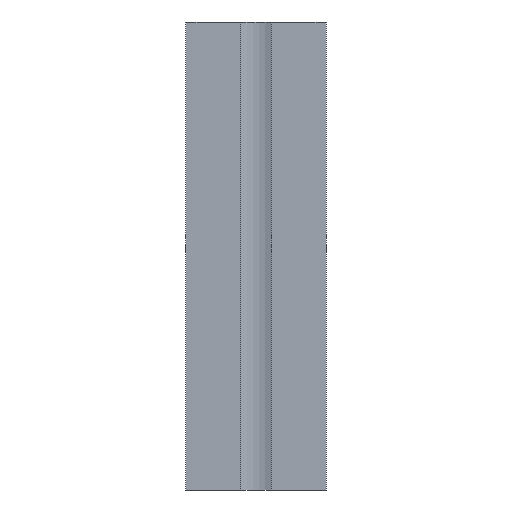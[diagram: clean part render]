
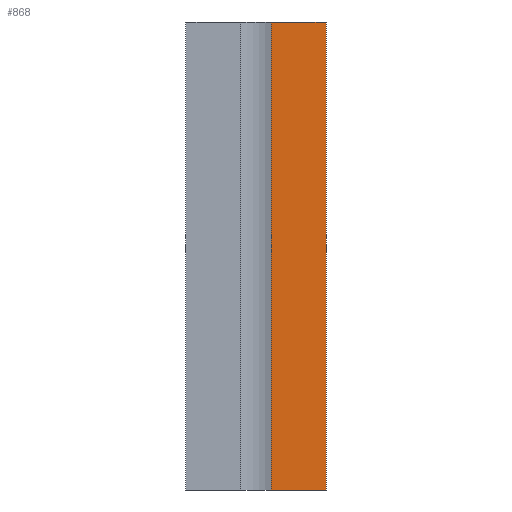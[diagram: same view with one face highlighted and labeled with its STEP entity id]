
A CAD part, front view. The second image highlights one B-rep face of the part: STEP entity #868.
In plain terms, the highlighted planar face has unit normal (0, -1, 0).
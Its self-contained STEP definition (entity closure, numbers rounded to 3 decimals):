
#177=ORIENTED_EDGE('',*,*,#329,.F.);
#178=ORIENTED_EDGE('',*,*,#387,.T.);
#179=ORIENTED_EDGE('',*,*,#388,.F.);
#180=ORIENTED_EDGE('',*,*,#389,.F.);
#329=EDGE_CURVE('',#435,#436,#525,.T.);
#387=EDGE_CURVE('',#435,#479,#569,.T.);
#388=EDGE_CURVE('',#480,#479,#570,.T.);
#389=EDGE_CURVE('',#436,#480,#571,.T.);
#435=VERTEX_POINT('',#1270);
#436=VERTEX_POINT('',#1272);
#479=VERTEX_POINT('',#1394);
#480=VERTEX_POINT('',#1396);
#525=LINE('',#1271,#625);
#569=LINE('',#1393,#669);
#570=LINE('',#1395,#670);
#571=LINE('',#1397,#671);
#625=VECTOR('',#1032,1000.);
#669=VECTOR('',#1146,1000.);
#670=VECTOR('',#1147,1000.);
#671=VECTOR('',#1148,1000.);
#723=EDGE_LOOP('',(#177,#178,#179,#180));
#781=FACE_BOUND('',#723,.T.);
#825=PLANE('',#942);
#868=ADVANCED_FACE('',(#781),#825,.F.);
#942=AXIS2_PLACEMENT_3D('',#1392,#1144,#1145);
#1032=DIRECTION('',(0.,0.,1.));
#1144=DIRECTION('',(0.,1.,0.));
#1145=DIRECTION('',(0.,0.,1.));
#1146=DIRECTION('',(1.,0.,0.));
#1147=DIRECTION('',(0.,0.,-1.));
#1148=DIRECTION('',(1.,0.,0.));
#1270=CARTESIAN_POINT('',(3.25,-15.,-50.));
#1271=CARTESIAN_POINT('',(3.25,-15.,50.));
#1272=CARTESIAN_POINT('',(3.25,-15.,50.));
#1392=CARTESIAN_POINT('',(-15.,-15.,50.));
#1393=CARTESIAN_POINT('',(-15.,-15.,-50.));
#1394=CARTESIAN_POINT('',(15.,-15.,-50.));
#1395=CARTESIAN_POINT('',(15.,-15.,50.));
#1396=CARTESIAN_POINT('',(15.,-15.,50.));
#1397=CARTESIAN_POINT('',(-15.,-15.,50.));
